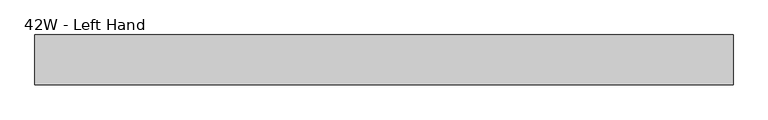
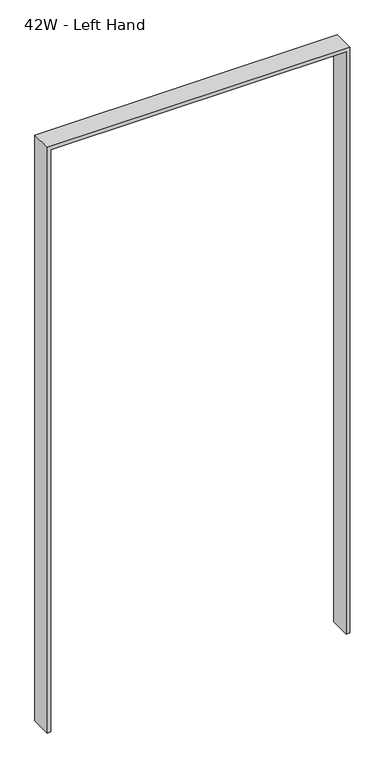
"""IFC4 building model written with IfcOpenShell, lengths in millimetres: furniture geometry, Steelcase - Montage - Door - Door Frame : 42W - Left Hand."""

from ifc_helpers import new_model, si_unit, frame, origin, place, context, project, spatial, polyline, outline, extrude, source, transform, mapped, element, save


def furniture_42w_left_hand_62aa6225(model_context):
    return source(origin(), model_context, "Body", "SweptSolid", [
        extrude(outline(polyline([(0.0, 12.7000004), (2171.7, 12.7000004), (2171.7, 1054.0999996), (0.0, 1054.0999996), (0.0, 1066.8), (2184.3999516, 1066.8), (2184.3999516, 0.0), (0.0, 0.0), (0.0, 12.7000004)])), frame((0.0, -38.1000015, 0.0), z_axis=(0.0, 1.0, 0.0), x_axis=(0.0, 0.0, 1.0)), (0.0, 0.0, 1.0), 76.200003),
    ])


if __name__ == "__main__":
    model = new_model("IFC4")
    model_context = context("Model", 3, world=origin())
    ifc_project = project(units=[si_unit("LENGTHUNIT", "METRE", prefix="MILLI")], contexts=[model_context])
    site = spatial("IfcSite", under=ifc_project)
    building = spatial("IfcBuilding", under=site)
    placement = place(None, origin())
    furniture_42w_left_hand_shape = furniture_42w_left_hand_62aa6225(model_context)
    element("IfcFurniture", 1, ObjectType="Steelcase - Montage - Door - Door Frame : 42W - Left Hand", at=placement, inside=building, context=model_context, shape_type="MappedRepresentation", body=[
        mapped(furniture_42w_left_hand_shape, transform((0.0, 0.0, 0.0), x_axis=(1.0, 0.0, 0.0), y_axis=(0.0, 1.0, 0.0), z_axis=(0.0, 0.0, 1.0))),
    ])
    save(model, "model.ifc")
